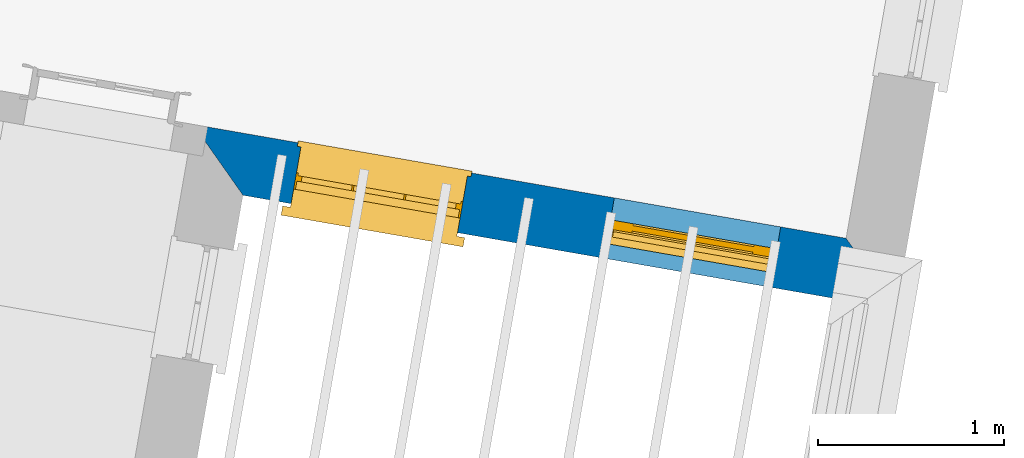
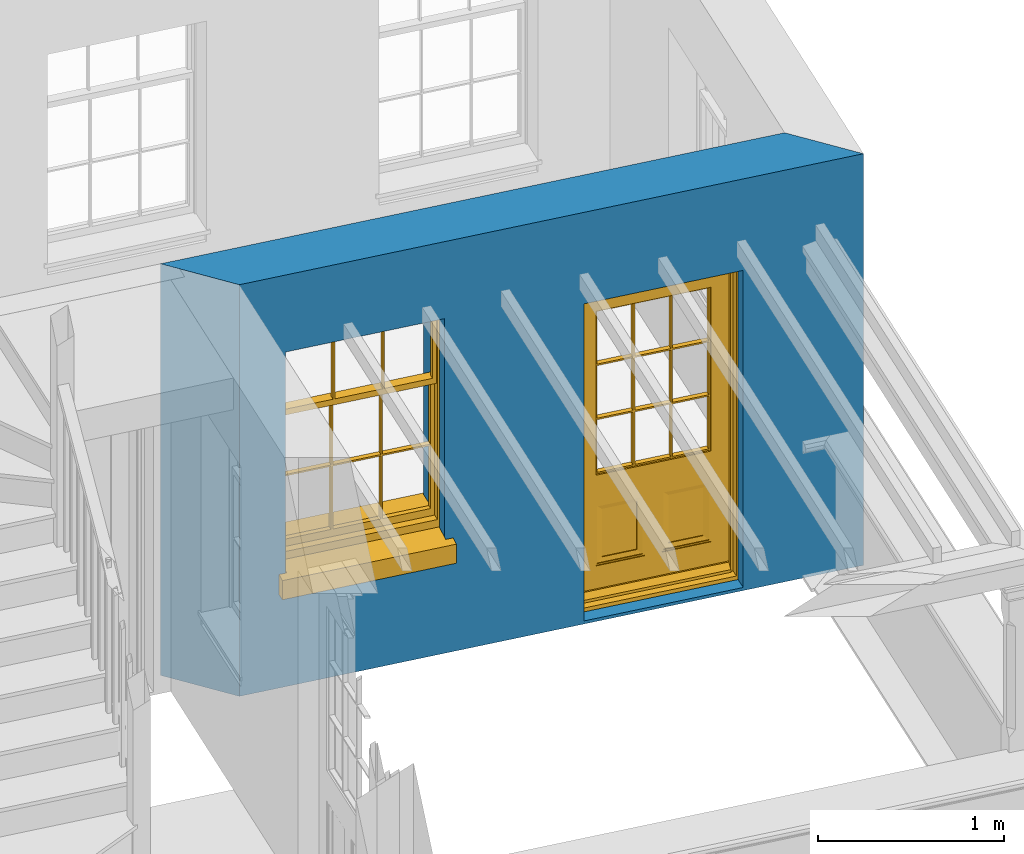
# One storey, part 3 of 6: 1 door, 1 wall, 1 window, 2 openings.
"""IFC4 building model written with IfcOpenShell, lengths in metres."""

from ifc_helpers import new_model, si_unit, frame, origin, origin_with_axes, place, context, subcontext, project, spatial, polyline, outline, extrude, faceted_brep, source, transform, mapped, material, layer, layer_set, layer_usage, type_object, type_shapes, element, fill, save


model = new_model("IFC4")

# Units and contexts
model_context = context("Model", 3, world=origin_with_axes())
body_context = subcontext(model_context, "Body", "Model", "MODEL_VIEW")
ifc_project = project(units=[si_unit("PLANEANGLEUNIT", "RADIAN"), si_unit("MASSUNIT", "GRAM", prefix="KILO"), si_unit("FORCEUNIT", "NEWTON", prefix="KILO"), si_unit("LENGTHUNIT", "METRE"), si_unit("AREAUNIT", "SQUARE_METRE"), si_unit("VOLUMEUNIT", "CUBIC_METRE")], contexts=[model_context, model_context])

# Sites, building, storey
site_1_placement = place(None, origin_with_axes())
site_1 = spatial("IfcSite", under=ifc_project, at=site_1_placement, Name="Tamar")
site_2_placement = place(site_1_placement, origin_with_axes())
site_2 = spatial("IfcSite", under=site_1, at=site_2_placement, Name="Site plot-27", CompositionType="ELEMENT")
building_placement = place(None, origin_with_axes())
building = spatial("IfcBuilding", under=site_2, at=building_placement, Name="Building plot-27", CompositionType="ELEMENT")
storey_placement = place(None, frame((0.0, 0.0, 29.3), z_axis=(0.0, 0.0, 1.0), x_axis=(1.0, 0.0, 0.0)))
storey = spatial("IfcBuildingStorey", under=building, at=storey_placement, Name="plot-27 1", CompositionType="ELEMENT", Elevation=29.3)

# Wall, openings, door, window
ifc_material = material(Name="Masonry")
ifc_layer = layer(ifc_material, 0.33, ventilated=False)
ifc_layer_set = layer_set([ifc_layer], Name="exterior_0.08_0.25")
ifc_layer_usage = layer_usage(ifc_layer_set, "AXIS2", "POSITIVE", -0.25)
wall_type = type_object("IfcWallType", Name="exterior_0.08_0.25", PredefinedType="SOLIDWALL", material=ifc_layer_set)
wall_placement = place(storey_placement, frame((293.682206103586, 272.131574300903, 0.0), z_axis=(0.0, 0.0, 1.0), x_axis=(0.985133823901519, -0.171788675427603, 0.0)))
wall = element("IfcWall", 1, at=wall_placement, inside=storey, type_object=wall_type, material=ifc_layer_usage, Name="exterior", context=body_context, shape_type="SweptSolid", body=[
    extrude(outline(polyline([(-0.0800000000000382, 0.0800000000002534), (0.25000000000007, -0.250000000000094), (3.82084823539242, -0.250000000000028), (3.4908482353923, 0.0800000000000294), (-0.0800000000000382, 0.0800000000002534)])), origin_with_axes(), (0.0, 0.0, 1.0), 2.7),
])
opening_1_placement = place(wall_placement, frame((0.513136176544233, 0.0, 0.75)))
opening_1 = element("IfcOpeningElement", 2, at=opening_1_placement, cuts=wall, Name="My Opening", ObjectType="Opening", context=body_context, shape_type="SweptSolid", body=[
    extrude(outline(polyline([(0.0, -0.269999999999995), (0.91000000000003, -0.269999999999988), (0.910000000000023, 1.09999999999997), (-7.88258347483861e-15, 1.09999999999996), (0.0, -0.269999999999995)])), origin_with_axes(), (0.0, 0.0, 1.0), 1.445),
])
opening_2_placement = place(wall_placement, frame((2.22313617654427, 0.0, 0.0199999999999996)))
opening_2 = element("IfcOpeningElement", 3, at=opening_2_placement, cuts=wall, Name="My Opening", ObjectType="Opening", context=body_context, shape_type="SweptSolid", body=[
    extrude(outline(polyline([(0.0, -0.26999999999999), (0.909999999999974, -0.269999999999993), (0.909999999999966, 1.09999999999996), (-7.99360577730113e-15, 1.09999999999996), (0.0, -0.26999999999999)])), origin_with_axes(), (0.0, 0.0, 1.0), 2.08),
])
door_type = type_object("IfcDoorType", Name="door_panelled", OperationType="SINGLE_SWING_LEFT", PredefinedType="NOTDEFINED")
shared_shape_1 = source(origin(), body_context, "Body", "Brep", [
    faceted_brep([(0.545, 0.195, 0.265), (0.745, 0.195, 0.265), (0.745, 0.2, 0.265), (0.545, 0.2, 0.265), (0.745, 0.2, 0.58), (0.545, 0.2, 0.58), (0.545, 0.195, 0.58), (0.515, 0.19, 0.235), (0.775, 0.19, 0.235), (0.745, 0.195, 0.58), (0.515, 0.19, 0.61), (0.515, 0.185, 0.235), (0.775, 0.185, 0.235), (0.775, 0.19, 0.61), (0.515, 0.185, 0.61), (0.785, 0.185, 0.225), (0.505, 0.185, 0.225), (0.775, 0.185, 0.61), (0.505, 0.185, 0.62), (0.785, 0.185, 0.62), (0.505, 0.18, 0.225), (0.785, 0.18, 0.225), (0.505, 0.18, 0.62), (0.785, 0.18, 0.62), (0.883, 0.18, 0.075), (0.898, 0.18, 0.075), (0.405, 0.18, 0.62), (0.405, 0.18, 0.225), (0.027, 0.18, 0.075), (0.785, 0.18, 0.82), (0.125, 0.18, 0.82), (0.405, 0.185, 0.62), (0.405, 0.185, 0.225), (0.898, 0.18, 2.068), (0.027, 0.17, 0.075), (0.883, 0.17, 0.075), (0.125, 0.18, 0.225), (0.012, 0.18, 0.075), (0.785, 0.19, 0.82), (0.125, 0.19, 0.82), (0.125, 0.18, 0.62), (0.125, 0.185, 0.62), (0.395, 0.185, 0.61), (0.395, 0.185, 0.235), (0.125, 0.185, 0.225), (0.785, 0.18, 1.895), (0.027, 0.14, 0.045), (0.883, 0.14, 0.045), (0.558333, 0.19, 0.83), (0.351667, 0.19, 0.83), (0.125, 0.18, 1.895), (0.125, 0.19, 1.895), (0.785, 0.19, 1.895), (0.012, 0.18, 2.068), (0.135, 0.185, 0.61), (0.395, 0.19, 0.61), (0.395, 0.19, 0.235), (0.135, 0.185, 0.235), (0.027, 0.14, 0.027), (0.883, 0.14, 0.027), (0.568333, 0.19, 0.83), (0.558333, 0.22, 0.83), (0.351667, 0.22, 0.83), (0.341667, 0.19, 0.83), (0.135, 0.19, 1.185), (0.135, 0.19, 1.53), (0.775, 0.19, 1.53), (0.775, 0.19, 1.185), (0.135, 0.19, 0.61), (0.365, 0.195, 0.58), (0.365, 0.195, 0.265), (0.135, 0.19, 0.235), (0.568333, 0.19, 1.175), (0.558333, 0.19, 1.175), (0.775, 0.19, 0.83), (0.558333, 0.22, 1.175), (0.785, 0.22, 0.82), (0.125, 0.22, 0.82), (0.351667, 0.22, 1.175), (0.351667, 0.19, 1.175), (0.341667, 0.19, 1.175), (0.135, 0.19, 0.83), (0.135, 0.19, 1.175), (0.135, 0.22, 1.185), (0.135, 0.22, 1.53), (0.135, 0.19, 1.54), (0.351667, 0.19, 1.885), (0.558333, 0.19, 1.885), (0.775, 0.22, 1.53), (0.775, 0.22, 1.185), (0.775, 0.19, 1.175), (0.775, 0.19, 1.54), (0.165, 0.195, 0.58), (0.365, 0.2, 0.58), (0.365, 0.2, 0.265), (0.165, 0.195, 0.265), (0.568333, 0.22, 0.83), (0.568333, 0.22, 1.175), (0.568333, 0.19, 1.185), (0.558333, 0.19, 1.185), (0.775, 0.22, 0.83), (0.785, 0.23, 0.82), (0.125, 0.23, 0.82), (0.341667, 0.22, 0.83), (0.341667, 0.22, 1.175), (0.351667, 0.19, 1.185), (0.341667, 0.19, 1.185), (0.135, 0.22, 0.83), (0.341667, 0.22, 1.185), (0.125, 0.22, 1.895), (0.341667, 0.22, 1.53), (0.341667, 0.19, 1.53), (0.135, 0.19, 1.885), (0.341667, 0.19, 1.54), (0.341667, 0.19, 1.885), (0.558333, 0.22, 1.885), (0.351667, 0.22, 1.885), (0.568333, 0.19, 1.885), (0.785, 0.22, 1.895), (0.568333, 0.22, 1.185), (0.568333, 0.19, 1.53), (0.568333, 0.22, 1.53), (0.568333, 0.19, 1.54), (0.775, 0.19, 1.885), (0.165, 0.2, 0.58), (0.165, 0.2, 0.265), (0.775, 0.22, 1.175), (0.558333, 0.19, 1.53), (0.351667, 0.22, 1.185), (0.558333, 0.22, 1.185), (0.505, 0.23, 0.62), (0.405, 0.23, 0.62), (0.125, 0.23, 1.895), (0.785, 0.23, 1.895), (0.351667, 0.19, 1.53), (0.135, 0.22, 1.175), (0.135, 0.22, 1.54), (0.341667, 0.22, 1.54), (0.135, 0.22, 1.885), (0.351667, 0.19, 1.54), (0.558333, 0.22, 1.54), (0.558333, 0.19, 1.54), (0.351667, 0.22, 1.54), (0.775, 0.22, 1.54), (0.568333, 0.22, 1.54), (0.775, 0.22, 1.885), (0.558333, 0.22, 1.53), (0.405, 0.23, 0.225), (0.505, 0.23, 0.225), (0.125, 0.23, 0.62), (0.785, 0.23, 0.62), (0.012, 0.23, 2.068), (0.898, 0.23, 2.068), (0.351667, 0.22, 1.53), (0.341667, 0.22, 1.885), (0.568333, 0.22, 1.885), (0.405, 0.225, 0.225), (0.405, 0.225, 0.62), (0.505, 0.225, 0.62), (0.505, 0.225, 0.225), (0.898, 0.23, 0.027), (0.012, 0.23, 0.027), (0.125, 0.225, 0.62), (0.785, 0.225, 0.62), (0.395, 0.225, 0.235), (0.395, 0.225, 0.61), (0.125, 0.23, 0.225), (0.125, 0.225, 0.225), (0.515, 0.225, 0.61), (0.515, 0.225, 0.235), (0.785, 0.23, 0.225), (0.785, 0.225, 0.225), (0.135, 0.225, 0.61), (0.775, 0.225, 0.61), (0.135, 0.225, 0.235), (0.395, 0.22, 0.235), (0.395, 0.22, 0.61), (0.515, 0.22, 0.61), (0.515, 0.22, 0.235), (0.775, 0.225, 0.235), (0.135, 0.22, 0.61), (0.775, 0.22, 0.61), (0.135, 0.22, 0.235), (0.365, 0.215, 0.265), (0.365, 0.215, 0.58), (0.545, 0.215, 0.58), (0.545, 0.215, 0.265), (0.775, 0.22, 0.235), (0.165, 0.215, 0.58), (0.745, 0.215, 0.58), (0.165, 0.215, 0.265), (0.365, 0.21, 0.58), (0.365, 0.21, 0.265), (0.545, 0.21, 0.58), (0.545, 0.21, 0.265), (0.745, 0.215, 0.265), (0.165, 0.21, 0.58), (0.745, 0.21, 0.58), (0.165, 0.21, 0.265), (0.745, 0.21, 0.265), (0.885, 0.178, 0.025), (0.025, 0.178, 0.025), (0.025, 0.15, 0.025), (0.885, 0.15, 0.025), (0.9, 0.23, 0.025), (0.01, 0.23, 0.025), (0.9, 0.178, 0.025), (0.91, 0.23, 0.0), (0.0, 0.23, 0.0), (0.01, 0.178, 0.025), (0.9, 0.178, 2.07), (0.9, 0.23, 2.07), (0.885, 0.178, 2.055), (0.91, 0.23, 2.08), (0.01, 0.23, 2.07), (0.0, 0.23, 2.08), (0.01, 0.178, 2.07), (0.025, 0.178, 2.055), (0.0, 0.1, 2.08), (0.91, 0.1, 2.08), (0.01, 0.1, 2.07), (0.9, 0.1, 2.07), (0.01, 0.15, 2.07), (0.9, 0.15, 2.07), (0.0, 0.1, 0.0), (0.91, 0.1, 0.0), (0.01, 0.1, 0.025), (0.9, 0.1, 0.025), (0.01, 0.15, 0.025), (0.025, 0.15, 2.055), (0.9, 0.15, 0.025), (0.885, 0.15, 2.055), (0.898, 0.18, 0.027), (0.012, 0.18, 0.027), (0.883, 0.18, 0.027), (0.027, 0.18, 0.027)], [[[0, 1, 2, 3]], [[2, 4, 5, 3]], [[0, 3, 5, 6]], [[1, 0, 7, 8]], [[9, 4, 2, 1]], [[9, 6, 5, 4]], [[0, 6, 10, 7]], [[8, 7, 11, 12]], [[8, 13, 9, 1]], [[13, 10, 6, 9]], [[7, 10, 14, 11]], [[15, 12, 11, 16]], [[12, 17, 13, 8]], [[17, 14, 10, 13]], [[18, 16, 11, 14]], [[15, 19, 17, 12]], [[15, 16, 20, 21]], [[14, 17, 19, 18]], [[16, 18, 22, 20]], [[21, 23, 19, 15]], [[24, 25, 21, 20]], [[23, 22, 18, 19]], [[20, 22, 26, 27]], [[23, 21, 25]], [[28, 24, 20, 27]], [[22, 23, 29]], [[29, 30, 26, 22]], [[27, 26, 31, 32]], [[23, 25, 33, 29]], [[34, 35, 24, 28]], [[28, 27, 36, 37]], [[38, 39, 30, 29]], [[26, 30, 40]], [[26, 40, 41, 31]], [[42, 43, 32, 31]], [[32, 44, 36, 27]], [[33, 45, 29]], [[46, 47, 35, 34]], [[36, 40, 37]], [[39, 38, 48, 49]], [[50, 30, 39, 51]], [[29, 45, 52, 38]], [[53, 37, 40, 30]], [[44, 41, 40, 36]], [[31, 41, 54, 42]], [[43, 42, 55, 56]], [[57, 44, 32, 43]], [[50, 45, 33, 53]], [[47, 46, 58, 59]], [[60, 48, 38]], [[49, 48, 61, 62]], [[49, 63, 39]], [[50, 53, 30]], [[51, 39, 64, 65]], [[45, 50, 51, 52]], [[66, 67, 38, 52]], [[57, 54, 41, 44]], [[42, 54, 68, 55]], [[56, 55, 69, 70]], [[56, 71, 57, 43]], [[60, 72, 73, 48]], [[60, 38, 74]], [[48, 73, 75, 61]], [[76, 77, 62, 61]], [[62, 78, 79, 49]], [[49, 79, 80, 63]], [[63, 81, 39]], [[82, 64, 39]], [[65, 64, 83, 84]], [[85, 51, 65]], [[52, 51, 86, 87]], [[88, 89, 67, 66]], [[90, 38, 67]], [[91, 66, 52]], [[71, 68, 54, 57]], [[55, 68, 92, 69]], [[69, 93, 94, 70]], [[70, 95, 71, 56]], [[96, 97, 72, 60]], [[73, 72, 98, 99]], [[74, 38, 90]], [[100, 96, 60, 74]], [[75, 73, 79, 78]], [[61, 75, 97, 96]], [[101, 102, 77, 76]], [[77, 103, 62]], [[96, 76, 61]], [[103, 104, 78, 62]], [[80, 79, 105, 106]], [[63, 80, 104, 103]], [[81, 63, 103, 107]], [[81, 82, 39]], [[106, 64, 82, 80]], [[106, 108, 83, 64]], [[84, 83, 77, 109]], [[110, 111, 65, 84]], [[112, 51, 85]], [[113, 85, 65, 111]], [[114, 86, 51]], [[115, 87, 86, 116]], [[117, 52, 87]], [[118, 76, 89, 88]], [[119, 98, 67, 89]], [[120, 121, 88, 66]], [[67, 98, 72, 90]], [[91, 122, 120, 66]], [[91, 52, 123]], [[95, 92, 68, 71]], [[69, 92, 124, 93]], [[94, 93, 124, 125]], [[94, 125, 95, 70]], [[72, 97, 126, 90]], [[127, 99, 98, 120]], [[99, 105, 79, 73]], [[74, 90, 126, 100]], [[96, 100, 76]], [[128, 129, 75, 78]], [[97, 75, 129, 119]], [[130, 131, 102, 101]], [[109, 77, 102, 132]], [[133, 101, 76, 118]], [[77, 107, 103]], [[78, 104, 108, 128]], [[111, 106, 105, 134]], [[104, 80, 82, 135]], [[107, 135, 82, 81]], [[110, 108, 106, 111]], [[104, 135, 83, 108]], [[83, 135, 77]], [[136, 84, 109]], [[110, 84, 136, 137]], [[114, 51, 112]], [[85, 136, 138, 112]], [[113, 137, 136, 85]], [[111, 134, 139, 113]], [[86, 114, 113, 139]], [[140, 141, 87, 115]], [[139, 142, 116, 86]], [[109, 118, 115, 116]], [[117, 123, 52]], [[117, 87, 141, 122]], [[126, 89, 76]], [[143, 118, 88]], [[120, 98, 119, 121]], [[119, 89, 126, 97]], [[144, 143, 88, 121]], [[144, 122, 91, 143]], [[127, 120, 122, 141]], [[143, 91, 123, 145]], [[124, 92, 95, 125]], [[146, 129, 99, 127]], [[99, 129, 128, 105]], [[100, 126, 76]], [[121, 119, 129, 146]], [[147, 131, 130, 148]], [[131, 149, 102]], [[130, 101, 150]], [[102, 151, 132]], [[118, 109, 132, 133]], [[101, 133, 152]], [[107, 77, 135]], [[153, 128, 108, 110]], [[134, 105, 128, 153]], [[109, 138, 136]], [[153, 110, 137, 142]], [[154, 114, 112, 138]], [[137, 113, 114, 154]], [[141, 139, 134, 127]], [[141, 140, 142, 139]], [[144, 140, 115, 155]], [[142, 137, 154, 116]], [[155, 115, 118]], [[116, 154, 109]], [[117, 155, 145, 123]], [[122, 144, 155, 117]], [[143, 145, 118]], [[121, 146, 140, 144]], [[146, 127, 134, 153]], [[156, 157, 131, 147]], [[148, 130, 158, 159]], [[148, 160, 161, 147]], [[157, 162, 149, 131]], [[161, 151, 102, 149]], [[101, 152, 160, 150]], [[163, 158, 130, 150]], [[151, 152, 133, 132]], [[154, 138, 109]], [[142, 140, 146, 153]], [[145, 155, 118]], [[157, 156, 164, 165]], [[147, 166, 167, 156]], [[168, 169, 159, 158]], [[170, 148, 159, 171]], [[148, 170, 160]], [[166, 147, 161]], [[172, 162, 157, 165]], [[166, 149, 162, 167]], [[166, 161, 149]], [[150, 160, 170]], [[163, 173, 168, 158]], [[171, 163, 150, 170]], [[174, 164, 156, 167]], [[175, 176, 165, 164]], [[169, 168, 177, 178]], [[171, 159, 169, 179]], [[167, 162, 172, 174]], [[176, 180, 172, 165]], [[179, 173, 163, 171]], [[181, 177, 168, 173]], [[164, 174, 182, 175]], [[183, 184, 176, 175]], [[178, 177, 185, 186]], [[179, 169, 178, 187]], [[174, 172, 180, 182]], [[184, 188, 180, 176]], [[187, 181, 173, 179]], [[189, 185, 177, 181]], [[175, 182, 190, 183]], [[191, 184, 183, 192]], [[185, 193, 194, 186]], [[187, 178, 186, 195]], [[182, 180, 188, 190]], [[191, 196, 188, 184]], [[195, 189, 181, 187]], [[197, 193, 185, 189]], [[183, 190, 198, 192]], [[198, 196, 191, 192]], [[194, 193, 197, 199]], [[195, 186, 194, 199]], [[188, 196, 198, 190]], [[197, 189, 195, 199]], [[200, 201, 202, 203]], [[201, 200, 204, 205]], [[206, 204, 200]], [[204, 207, 208, 205]], [[209, 201, 205]], [[210, 211, 204, 206]], [[206, 200, 212, 210]], [[211, 213, 207, 204]], [[214, 205, 208, 215]], [[216, 217, 201, 209]], [[205, 214, 216, 209]], [[216, 214, 211, 210]], [[210, 212, 217, 216]], [[214, 215, 213, 211]], [[218, 219, 213, 215]], [[219, 218, 220, 221]], [[221, 220, 222, 223]], [[215, 208, 224, 218]], [[225, 224, 208, 207]], [[224, 226, 220, 218]], [[224, 225, 227, 226]], [[219, 225, 207, 213]], [[228, 222, 220, 226]], [[219, 221, 227, 225]], [[226, 227, 203, 202]], [[202, 229, 222, 228]], [[228, 226, 202]], [[227, 221, 223, 230]], [[230, 203, 227]], [[217, 229, 202, 201]], [[231, 223, 222, 229]], [[230, 223, 231, 203]], [[231, 229, 217, 212]], [[212, 200, 203, 231]], [[33, 152, 151, 53]], [[25, 160, 152, 33]], [[161, 37, 53, 151]], [[232, 160, 25]], [[161, 233, 37]], [[160, 232, 234]], [[24, 234, 232, 25]], [[233, 161, 235]], [[37, 233, 235, 28]], [[161, 160, 234, 235]], [[35, 47, 234, 24]], [[28, 235, 46, 34]], [[58, 235, 234, 59]], [[59, 234, 47]], [[58, 46, 235]]]),
])
type_shapes(door_type, [shared_shape_1])
door_placement = place(storey_placement, frame((295.825909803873, 271.483678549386, 0.0199999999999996), z_axis=(0.0, 0.0, 1.0), x_axis=(0.896471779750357, -0.156327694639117, 0.0)))
door = element("IfcDoor", 4, at=door_placement, inside=storey, type_object=door_type, Name="bedroom outside door", OverallHeight=2.08, OverallWidth=0.91, context=body_context, shape_type="MappedRepresentation", body=[
    mapped(shared_shape_1, transform((0.0, 0.0, 0.0), scale=1.0)),
])
fill(opening_2, door)
window_type = type_object("IfcWindowType", Name="sash_shorter", PartitioningType="DOUBLE_PANEL_HORIZONTAL", PredefinedType="NOTDEFINED")
shared_shape_2 = source(origin(), body_context, "Body", "Brep", [
    faceted_brep([(0.876875, 0.145, 0.999097), (0.876875, 0.145, 1.411875), (0.9, 0.145, 1.435), (0.033125, 0.145, 1.411875), (0.033125, 0.145, 0.999097), (0.01, 0.145, 1.435), (0.033125, 0.115, 1.411875), (0.01, 0.115, 1.435), (0.033125, 0.115, 0.999097), (0.876875, 0.115, 1.411875), (0.876875, 0.115, 0.999097), (0.9, 0.115, 1.435), (0.033125, 0.145, 0.960972), (0.01, 0.145, 0.960972), (0.033125, 0.145, 0.548195), (0.876875, 0.145, 0.960972), (0.876875, 0.145, 0.548195), (0.9, 0.145, 0.960972), (0.876875, 0.145, 0.538195), (0.876875, 0.145, 0.125417), (0.9, 0.145, 0.077167), (0.033125, 0.145, 0.125417), (0.033125, 0.145, 0.538195), (0.01, 0.145, 0.077167), (0.9, 0.115, 0.960972), (0.01, 0.115, 0.960972), (-0.0425, 0.0, 0.01), (-0.0425, -0.05, 0.001667), (0.0, 0.0, 0.01), (0.9525, 0.0, 0.01), (0.91, 0.0, 0.01), (0.9525, -0.05, 0.001667), (-0.02, 0.33, 0.077167), (0.0, 0.33, 0.077167), (-0.02, 0.36, 0.077167), (0.0, 0.19, 0.077167), (0.01, 0.19, 0.077167), (0.91, 0.19, 0.077167), (0.91, 0.33, 0.077167), (0.9, 0.19, 0.077167), (0.93, 0.33, 0.077167), (0.93, 0.36, 0.077167), (0.01, 0.145, 0.999097), (0.01, 0.175, 0.999097), (0.9, 0.145, 0.999097), (0.9, 0.175, 0.999097), (0.876875, 0.175, 0.125417), (0.876875, 0.175, 0.538195), (0.9, 0.175, 0.077167), (0.876875, 0.175, 0.548195), (0.876875, 0.175, 0.960972), (0.033125, 0.175, 0.125417), (0.01, 0.175, 0.077167), (0.033125, 0.175, 0.538195), (0.033125, 0.175, 0.960972), (0.033125, 0.175, 0.548195), (-0.02, 0.33, 0.052167), (-0.02, 0.36, 0.052167), (0.93, 0.36, 0.052167), (0.93, 0.33, 0.052167), (0.91, 0.33, 0.052167), (0.0, 0.33, 0.052167), (0.91, 0.1, 0.026667), (0.0, 0.1, 0.026667), (-0.0425, -0.05, -0.123333), (0.9525, -0.05, -0.123333), (-0.0425, 0.0, -0.123333), (0.9525, 0.0, -0.123333), (0.01, 0.19, 1.435), (0.9, 0.19, 1.435), (0.0, 0.19, 1.445), (0.91, 0.19, 1.445), (0.01, 0.1, 0.077167), (0.9, 0.1, 0.077167), (0.592292, 0.145, 0.125417), (0.592292, 0.175, 0.125417), (0.317708, 0.175, 0.125417), (0.317708, 0.145, 0.125417), (0.592292, 0.145, 0.548195), (0.317708, 0.145, 0.548195), (0.317708, 0.145, 0.538195), (0.592292, 0.145, 0.538195), (0.592292, 0.175, 0.548195), (0.317708, 0.175, 0.548195), (0.602292, 0.175, 0.548195), (0.602292, 0.145, 0.548195), (0.317708, 0.175, 0.538195), (0.307708, 0.175, 0.125417), (0.307708, 0.175, 0.538195), (0.602292, 0.175, 0.538195), (0.602292, 0.175, 0.125417), (0.592292, 0.175, 0.538195), (0.307708, 0.175, 0.548195), (0.317708, 0.175, 0.960972), (0.307708, 0.175, 0.960972), (0.602292, 0.175, 0.960972), (0.592292, 0.175, 0.960972), (0.307708, 0.145, 0.538195), (0.307708, 0.145, 0.125417), (0.307708, 0.145, 0.548195), (0.307708, 0.145, 0.960972), (0.592292, 0.145, 0.960972), (0.317708, 0.145, 0.960972), (0.602292, 0.145, 0.960972), (0.602292, 0.145, 0.538195), (0.602292, 0.145, 0.125417), (0.317708, 0.115, 1.411875), (0.307708, 0.115, 1.411875), (0.307708, 0.115, 0.999097), (0.317708, 0.115, 0.999097), (0.602292, 0.115, 1.411875), (0.592292, 0.115, 1.411875), (0.592292, 0.115, 0.999097), (0.602292, 0.115, 0.999097), (0.317708, 0.145, 0.999097), (0.307708, 0.145, 0.999097), (0.307708, 0.145, 1.411875), (0.317708, 0.145, 1.411875), (0.602292, 0.145, 0.999097), (0.592292, 0.145, 0.999097), (0.592292, 0.145, 1.411875), (0.602292, 0.145, 1.411875), (0.91, 0.1, 1.445), (0.9, 0.1, 1.435), (0.01, 0.1, 1.435), (0.0, 0.1, 1.445), (0.91, 0.0, 0.0), (0.0, 0.0, 0.0), (0.91, 0.33, 0.0), (0.0, 0.33, 0.0)], [[[0, 1, 2]], [[3, 4, 5]], [[6, 7, 8]], [[9, 10, 11]], [[12, 13, 14]], [[15, 16, 17]], [[18, 19, 20]], [[21, 22, 23]], [[24, 15, 17]], [[13, 12, 25]], [[26, 27, 28]], [[29, 30, 31]], [[32, 33, 34]], [[35, 36, 33]], [[37, 38, 39]], [[40, 41, 38]], [[42, 4, 43]], [[44, 45, 0]], [[46, 47, 48]], [[49, 50, 45]], [[51, 52, 53]], [[54, 55, 43]], [[38, 33, 36, 39]], [[41, 34, 33, 38]], [[56, 32, 34, 57]], [[57, 34, 41, 58]], [[58, 41, 40, 59]], [[57, 58, 60, 61]], [[52, 48, 39, 36]], [[62, 63, 28, 30]], [[27, 31, 30, 28]], [[27, 64, 65, 31]], [[66, 67, 65, 64]], [[2, 5, 68, 69]], [[68, 70, 71, 69]], [[20, 23, 72, 73]], [[73, 72, 63, 62]], [[74, 75, 76, 77]], [[78, 79, 80, 81]], [[78, 82, 83, 79]], [[16, 49, 84, 85]], [[86, 76, 87, 88]], [[89, 90, 75, 91]], [[92, 88, 53, 55]], [[82, 91, 86, 83]], [[93, 83, 92, 94]], [[95, 84, 82, 96]], [[89, 84, 49, 47]], [[97, 88, 87, 98]], [[22, 53, 88, 97]], [[81, 91, 75, 74]], [[80, 86, 91, 81]], [[77, 76, 86, 80]], [[99, 92, 55, 14]], [[100, 94, 92, 99]], [[101, 96, 82, 78]], [[79, 83, 93, 102]], [[85, 84, 95, 103]], [[104, 89, 47, 18]], [[105, 90, 89, 104]], [[104, 18, 16, 85]], [[80, 97, 98, 77]], [[104, 81, 74, 105]], [[103, 101, 78, 85]], [[99, 14, 22, 97]], [[102, 100, 99, 79]], [[106, 107, 108, 109]], [[110, 111, 112, 113]], [[114, 115, 116, 117]], [[118, 119, 120, 121]], [[107, 116, 115, 108]], [[111, 120, 119, 112]], [[109, 114, 117, 106]], [[113, 118, 121, 110]], [[85, 78, 81, 104]], [[84, 89, 91, 82]], [[83, 86, 88, 92]], [[79, 99, 97, 80]], [[109, 112, 119, 114]], [[102, 93, 96, 101]], [[106, 117, 120, 111]], [[98, 87, 51, 21]], [[6, 3, 116, 107]], [[110, 121, 1, 9]], [[19, 46, 90, 105]], [[26, 66, 64, 27]], [[29, 31, 65, 67]], [[25, 24, 112, 109]], [[11, 7, 106, 111]], [[75, 48, 52, 76]], [[43, 45, 96, 93]], [[45, 43, 114, 119]], [[5, 2, 120, 117]], [[24, 25, 102, 101]], [[42, 5, 4]], [[2, 44, 0]], [[49, 45, 48, 47]], [[52, 43, 55, 53]], [[14, 13, 23, 22]], [[20, 17, 16, 18]], [[24, 11, 10]], [[25, 8, 7]], [[8, 4, 3, 6]], [[9, 1, 0, 10]], [[15, 50, 49, 16]], [[18, 47, 46, 19]], [[21, 51, 53, 22]], [[14, 55, 54, 12]], [[44, 2, 69, 45]], [[68, 5, 42, 43]], [[36, 35, 70, 68]], [[39, 69, 71, 37]], [[62, 122, 123, 73]], [[63, 72, 124, 125]], [[8, 108, 115, 4]], [[113, 10, 0, 118]], [[94, 100, 12, 54]], [[17, 20, 73, 24]], [[72, 23, 13, 25]], [[52, 36, 68, 43]], [[69, 39, 48, 45]], [[11, 24, 73, 123]], [[7, 124, 72, 25]], [[23, 77, 98]], [[98, 21, 23]], [[105, 74, 20]], [[20, 19, 105]], [[20, 74, 77, 23]], [[113, 112, 24]], [[24, 10, 113]], [[25, 109, 108]], [[108, 8, 25]], [[110, 9, 11]], [[11, 111, 110]], [[7, 6, 107]], [[107, 106, 7]], [[5, 117, 116]], [[116, 3, 5]], [[121, 120, 2]], [[2, 1, 121]], [[11, 123, 124, 7]], [[122, 125, 124, 123]], [[43, 93, 94]], [[94, 54, 43]], [[96, 45, 95]], [[50, 95, 45]], [[15, 103, 95, 50]], [[48, 75, 90]], [[90, 46, 48]], [[87, 76, 52]], [[52, 51, 87]], [[103, 15, 24]], [[24, 101, 103]], [[100, 102, 25]], [[25, 12, 100]], [[115, 114, 43]], [[43, 4, 115]], [[118, 0, 45]], [[45, 119, 118]], [[71, 70, 125, 122]], [[70, 35, 63, 125]], [[122, 62, 37, 71]], [[126, 67, 66, 127]], [[60, 58, 59]], [[38, 60, 59, 40]], [[61, 56, 57]], [[32, 56, 61, 33]], [[61, 60, 128, 129]], [[62, 60, 38, 37]], [[126, 128, 60, 62]], [[33, 61, 63, 35]], [[61, 129, 127, 63]], [[128, 126, 127, 129]], [[28, 127, 66, 26]], [[63, 127, 28]], [[29, 67, 126, 30]], [[30, 126, 62]]]),
])
type_shapes(window_type, [shared_shape_2])
window_placement = place(storey_placement, frame((294.141330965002, 271.777437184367, 0.75), z_axis=(0.0, 0.0, 1.0), x_axis=(0.896471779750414, -0.156327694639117, 0.0)))
window = element("IfcWindow", 5, at=window_placement, inside=storey, type_object=window_type, Name="bedroom outside window", OverallHeight=1.445, OverallWidth=0.91, context=body_context, shape_type="MappedRepresentation", body=[
    mapped(shared_shape_2, transform((0.0, 0.0, 0.0), scale=1.0)),
])
fill(opening_1, window)

save(model, "model.ifc")
